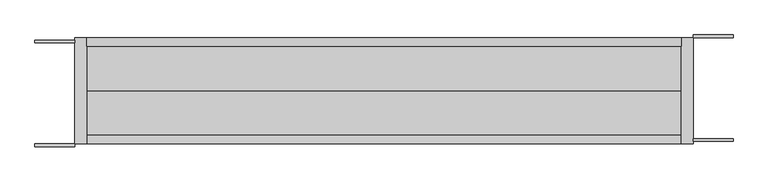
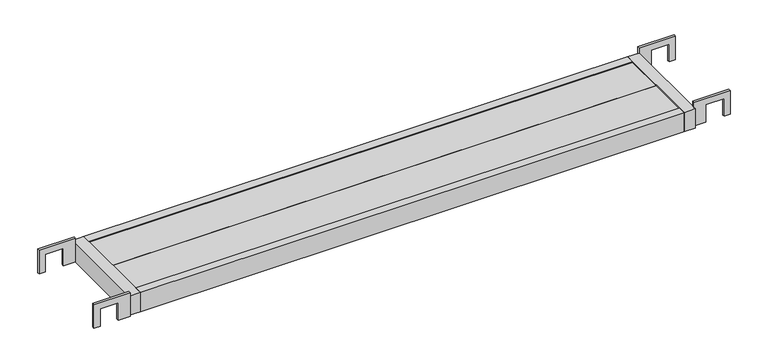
"""IFC4 building model written with IfcOpenShell, lengths in millimetres: proxy geometry, AKK布板HF-215_斜線なし_軽 : 鋼製布板 HF-215."""

from ifc_helpers import new_model, si_unit, frame, origin, place, context, project, spatial, polyline, outline, extrude, source, transform, mapped, element, save


def generic_models_e65f739b(model_context):
    return source(origin(), model_context, "Body", "SweptSolid", [
        extrude(outline(polyline([(37.5, 1460.0), (-24.1, 1460.0), (-24.1, 1489.5), (22.0, 1489.5), (22.0, 1534.5), (-24.1, 1534.5), (-24.1, 1549.5), (37.5, 1549.5), (37.5, 1460.0)])), frame((0.0, 12.0, 0.0), z_axis=(0.0, 1.0, 0.0), x_axis=(0.0, 0.0, 1.0)), (0.0, 0.0, 1.0), 6.0),
        extrude(outline(polyline([(37.5, 1460.0), (-24.1, 1460.0), (-24.1, 1489.5), (22.0, 1489.5), (22.0, 1534.5), (-24.1, 1534.5), (-24.1, 1549.5), (37.5, 1549.5), (37.5, 1460.0)])), frame((0.0, 246.0, 0.0), z_axis=(0.0, 1.0, 0.0), x_axis=(0.0, 0.0, 1.0)), (0.0, 0.0, 1.0), 6.0),
        extrude(outline(polyline([(37.5, -25.5), (-24.1, -25.5), (-24.1, -10.5), (22.0, -10.5), (22.0, 34.5), (-24.1, 34.5), (-24.1, 64.0), (37.5, 64.0), (37.5, -25.5)])), frame((0.0, 0.0, 0.0), z_axis=(0.0, 1.0, 0.0), x_axis=(0.0, 0.0, 1.0)), (0.0, 0.0, 1.0), 6.0),
        extrude(outline(polyline([(37.5, -25.5), (-24.1, -25.5), (-24.1, -10.5), (22.0, -10.5), (22.0, 34.5), (-24.1, 34.5), (-24.1, 64.0), (37.5, 64.0), (37.5, -25.5)])), frame((0.0, 234.0, 0.0), z_axis=(0.0, 1.0, 0.0), x_axis=(0.0, 0.0, 1.0)), (0.0, 0.0, 1.0), 6.0),
        extrude(outline(polyline([(1432.0, 226.0), (1432.0, 126.0), (92.0, 126.0), (92.0, 226.0), (1432.0, 226.0)])), frame((0.0, 0.0, 17.5), z_axis=(0.0, 0.0, 1.0), x_axis=(1.0, 0.0, 0.0)), (0.0, 0.0, 1.0), 5.0),
        extrude(outline(polyline([(1432.0, 126.0), (1432.0, 26.0), (92.0, 26.0), (92.0, 126.0), (1432.0, 126.0)])), frame((0.0, 0.0, 17.5), z_axis=(0.0, 0.0, 1.0), x_axis=(1.0, 0.0, 0.0)), (0.0, 0.0, 1.0), 5.0),
        extrude(outline(polyline([(1432.0, 246.0), (1432.0, 226.0), (92.0, 226.0), (92.0, 246.0), (1432.0, 246.0)])), frame((0.0, 0.0, -25.0), z_axis=(0.0, 0.0, 1.0), x_axis=(1.0, 0.0, 0.0)), (0.0, 0.0, 1.0), 50.0),
        extrude(outline(polyline([(1432.0, 6.0), (1432.0, 246.0), (1460.0, 246.0), (1460.0, 6.0), (1432.0, 6.0)])), frame((0.0, 0.0, -25.0), z_axis=(0.0, 0.0, 1.0), x_axis=(1.0, 0.0, 0.0)), (0.0, 0.0, 1.0), 50.0),
        extrude(outline(polyline([(64.0, 6.0), (64.0, 246.0), (92.0, 246.0), (92.0, 6.0), (64.0, 6.0)])), frame((0.0, 0.0, -25.0), z_axis=(0.0, 0.0, 1.0), x_axis=(1.0, 0.0, 0.0)), (0.0, 0.0, 1.0), 50.0),
        extrude(outline(polyline([(1432.0, 26.0), (1432.0, 6.0), (92.0, 6.0), (92.0, 26.0), (1432.0, 26.0)])), frame((0.0, 0.0, -25.0), z_axis=(0.0, 0.0, 1.0), x_axis=(1.0, 0.0, 0.0)), (0.0, 0.0, 1.0), 50.0),
    ])


if __name__ == "__main__":
    model = new_model("IFC4")
    model_context = context("Model", 3, world=origin())
    ifc_project = project(units=[si_unit("LENGTHUNIT", "METRE", prefix="MILLI")], contexts=[model_context])
    site = spatial("IfcSite", under=ifc_project)
    building = spatial("IfcBuilding", under=site)
    placement = place(None, origin())
    generic_models_shape = generic_models_e65f739b(model_context)
    element("IfcBuildingElementProxy", 1, Name="AKK布板HF-215_斜線なし_軽 : 鋼製布板 HF-215", ObjectType="AKK布板HF-215_斜線なし_軽 : 鋼製布板 HF-215", at=placement, inside=building, context=model_context, shape_type="MappedRepresentation", body=[
        mapped(generic_models_shape, transform((0.0, 0.0, 0.0), x_axis=(1.0, 0.0, 0.0), y_axis=(0.0, 1.0, 0.0), z_axis=(0.0, 0.0, 1.0))),
    ])
    save(model, "model.ifc")
